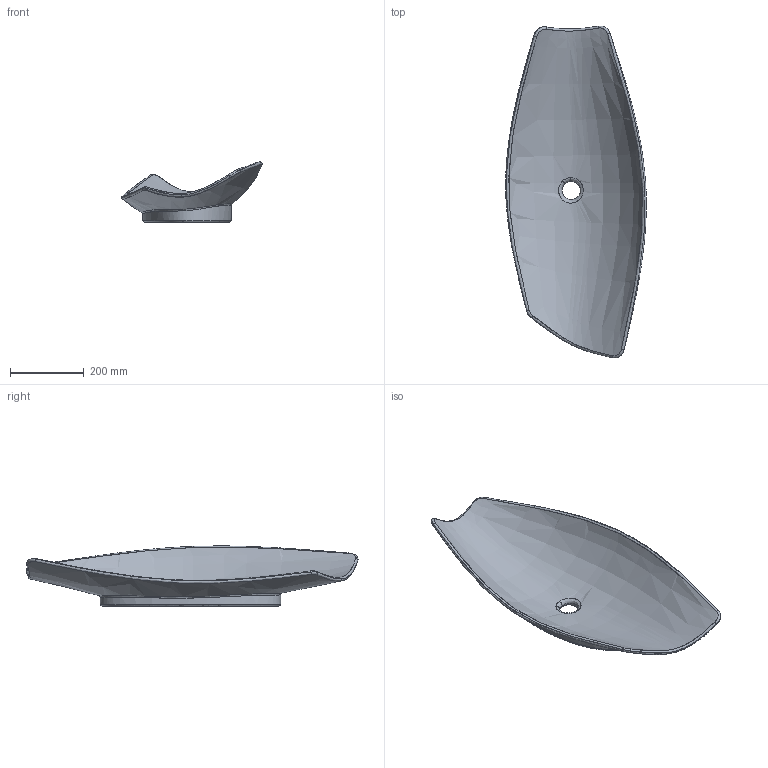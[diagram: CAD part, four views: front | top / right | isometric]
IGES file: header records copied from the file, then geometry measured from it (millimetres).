
Start section: C
Global section: file name: Kong 90.igs; native system:  By UGS Corp.; preprocessor: XPlus GENERIC/IGES 3.0; author: Author; organization: Title; date: 20120323.142952; units: millimetre
Bounding box: 382.31 x 902.01 x 163.47 mm (x, y, z)
Surface area: 705008.5 mm2 (no closed solid volume)
Topology: 0 solids, 0 shells, 31 faces, 148 edges, 148 vertices
Faces by surface type: bspline 31
